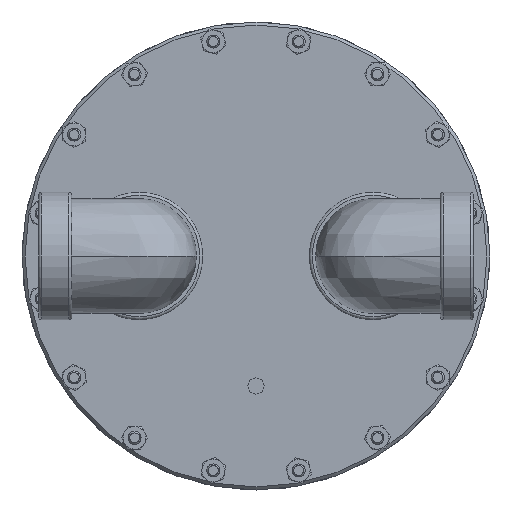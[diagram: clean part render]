
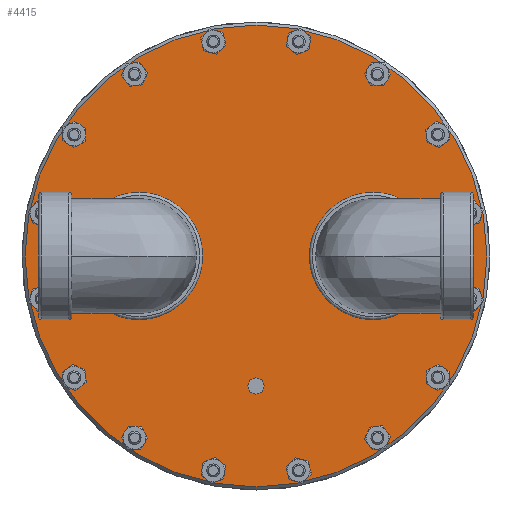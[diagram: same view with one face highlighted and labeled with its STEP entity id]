
A CAD part, front view. The second image highlights one B-rep face of the part: STEP entity #4415.
In plain terms, the highlighted planar face has unit normal (0, -1, 0) as drawn and (0, 0, -1) by its records, which use the part's own axes.
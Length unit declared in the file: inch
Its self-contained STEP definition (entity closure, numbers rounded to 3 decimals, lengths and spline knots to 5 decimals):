
#720=PLANE('',#4900);
#916=FACE_BOUND('',#1614,.T.);
#917=FACE_BOUND('',#1615,.T.);
#918=FACE_BOUND('',#1616,.T.);
#919=FACE_BOUND('',#1617,.T.);
#920=FACE_BOUND('',#1618,.T.);
#921=FACE_BOUND('',#1619,.T.);
#922=FACE_BOUND('',#1620,.T.);
#923=FACE_BOUND('',#1621,.T.);
#924=FACE_BOUND('',#1622,.T.);
#925=FACE_BOUND('',#1623,.T.);
#926=FACE_BOUND('',#1624,.T.);
#927=FACE_BOUND('',#1625,.T.);
#928=FACE_BOUND('',#1626,.T.);
#929=FACE_BOUND('',#1627,.T.);
#930=FACE_BOUND('',#1628,.T.);
#931=FACE_BOUND('',#1629,.T.);
#932=FACE_BOUND('',#1630,.T.);
#933=FACE_BOUND('',#1631,.T.);
#934=FACE_BOUND('',#1632,.T.);
#1162=FACE_OUTER_BOUND('',#1613,.T.);
#1613=EDGE_LOOP('',(#3543));
#1614=EDGE_LOOP('',(#3544));
#1615=EDGE_LOOP('',(#3545));
#1616=EDGE_LOOP('',(#3546));
#1617=EDGE_LOOP('',(#3547));
#1618=EDGE_LOOP('',(#3548));
#1619=EDGE_LOOP('',(#3549));
#1620=EDGE_LOOP('',(#3550));
#1621=EDGE_LOOP('',(#3551));
#1622=EDGE_LOOP('',(#3552));
#1623=EDGE_LOOP('',(#3553));
#1624=EDGE_LOOP('',(#3554));
#1625=EDGE_LOOP('',(#3555));
#1626=EDGE_LOOP('',(#3556));
#1627=EDGE_LOOP('',(#3557));
#1628=EDGE_LOOP('',(#3558));
#1629=EDGE_LOOP('',(#3559));
#1630=EDGE_LOOP('',(#3560));
#1631=EDGE_LOOP('',(#3561));
#1632=EDGE_LOOP('',(#3562));
#2032=CIRCLE('',#4845,0.1285);
#2034=CIRCLE('',#4848,0.1285);
#2036=CIRCLE('',#4851,0.1285);
#2038=CIRCLE('',#4854,0.1285);
#2040=CIRCLE('',#4857,0.1285);
#2042=CIRCLE('',#4860,0.1285);
#2044=CIRCLE('',#4863,0.1285);
#2046=CIRCLE('',#4866,0.1285);
#2048=CIRCLE('',#4869,0.1285);
#2050=CIRCLE('',#4872,0.1285);
#2052=CIRCLE('',#4875,0.1285);
#2054=CIRCLE('',#4878,0.1285);
#2056=CIRCLE('',#4881,0.1285);
#2058=CIRCLE('',#4884,0.1285);
#2060=CIRCLE('',#4887,0.1285);
#2062=CIRCLE('',#4890,0.1285);
#2065=CIRCLE('',#4894,0.155);
#2067=CIRCLE('',#4897,4.44);
#2069=CIRCLE('',#4901,0.95);
#2070=CIRCLE('',#4902,0.95);
#2378=VERTEX_POINT('',#7168);
#2380=VERTEX_POINT('',#7173);
#2382=VERTEX_POINT('',#7178);
#2384=VERTEX_POINT('',#7183);
#2386=VERTEX_POINT('',#7188);
#2388=VERTEX_POINT('',#7193);
#2390=VERTEX_POINT('',#7198);
#2392=VERTEX_POINT('',#7203);
#2394=VERTEX_POINT('',#7208);
#2396=VERTEX_POINT('',#7213);
#2398=VERTEX_POINT('',#7218);
#2400=VERTEX_POINT('',#7223);
#2402=VERTEX_POINT('',#7228);
#2404=VERTEX_POINT('',#7233);
#2406=VERTEX_POINT('',#7238);
#2408=VERTEX_POINT('',#7243);
#2411=VERTEX_POINT('',#7250);
#2413=VERTEX_POINT('',#7255);
#2415=VERTEX_POINT('',#7261);
#2416=VERTEX_POINT('',#7263);
#2798=EDGE_CURVE('',#2378,#2378,#2032,.T.);
#2800=EDGE_CURVE('',#2380,#2380,#2034,.T.);
#2802=EDGE_CURVE('',#2382,#2382,#2036,.T.);
#2804=EDGE_CURVE('',#2384,#2384,#2038,.T.);
#2806=EDGE_CURVE('',#2386,#2386,#2040,.T.);
#2808=EDGE_CURVE('',#2388,#2388,#2042,.T.);
#2810=EDGE_CURVE('',#2390,#2390,#2044,.T.);
#2812=EDGE_CURVE('',#2392,#2392,#2046,.T.);
#2814=EDGE_CURVE('',#2394,#2394,#2048,.T.);
#2816=EDGE_CURVE('',#2396,#2396,#2050,.T.);
#2818=EDGE_CURVE('',#2398,#2398,#2052,.T.);
#2820=EDGE_CURVE('',#2400,#2400,#2054,.T.);
#2822=EDGE_CURVE('',#2402,#2402,#2056,.T.);
#2824=EDGE_CURVE('',#2404,#2404,#2058,.T.);
#2826=EDGE_CURVE('',#2406,#2406,#2060,.T.);
#2828=EDGE_CURVE('',#2408,#2408,#2062,.T.);
#2831=EDGE_CURVE('',#2411,#2411,#2065,.T.);
#2833=EDGE_CURVE('',#2413,#2413,#2067,.T.);
#2835=EDGE_CURVE('',#2415,#2415,#2069,.T.);
#2836=EDGE_CURVE('',#2416,#2416,#2070,.T.);
#3543=ORIENTED_EDGE('',*,*,#2833,.F.);
#3544=ORIENTED_EDGE('',*,*,#2798,.T.);
#3545=ORIENTED_EDGE('',*,*,#2800,.T.);
#3546=ORIENTED_EDGE('',*,*,#2802,.T.);
#3547=ORIENTED_EDGE('',*,*,#2804,.T.);
#3548=ORIENTED_EDGE('',*,*,#2806,.T.);
#3549=ORIENTED_EDGE('',*,*,#2808,.T.);
#3550=ORIENTED_EDGE('',*,*,#2810,.T.);
#3551=ORIENTED_EDGE('',*,*,#2812,.T.);
#3552=ORIENTED_EDGE('',*,*,#2814,.T.);
#3553=ORIENTED_EDGE('',*,*,#2816,.T.);
#3554=ORIENTED_EDGE('',*,*,#2818,.T.);
#3555=ORIENTED_EDGE('',*,*,#2820,.T.);
#3556=ORIENTED_EDGE('',*,*,#2822,.T.);
#3557=ORIENTED_EDGE('',*,*,#2824,.T.);
#3558=ORIENTED_EDGE('',*,*,#2826,.T.);
#3559=ORIENTED_EDGE('',*,*,#2828,.T.);
#3560=ORIENTED_EDGE('',*,*,#2831,.T.);
#3561=ORIENTED_EDGE('',*,*,#2835,.T.);
#3562=ORIENTED_EDGE('',*,*,#2836,.T.);
#4415=ADVANCED_FACE('',(#1162,#916,#917,#918,#919,#920,#921,#922,#923,#924,
#925,#926,#927,#928,#929,#930,#931,#932,#933,#934),#720,.T.);
#4845=AXIS2_PLACEMENT_3D('',#7169,#5810,#5811);
#4848=AXIS2_PLACEMENT_3D('',#7174,#5816,#5817);
#4851=AXIS2_PLACEMENT_3D('',#7179,#5822,#5823);
#4854=AXIS2_PLACEMENT_3D('',#7184,#5828,#5829);
#4857=AXIS2_PLACEMENT_3D('',#7189,#5834,#5835);
#4860=AXIS2_PLACEMENT_3D('',#7194,#5840,#5841);
#4863=AXIS2_PLACEMENT_3D('',#7199,#5846,#5847);
#4866=AXIS2_PLACEMENT_3D('',#7204,#5852,#5853);
#4869=AXIS2_PLACEMENT_3D('',#7209,#5858,#5859);
#4872=AXIS2_PLACEMENT_3D('',#7214,#5864,#5865);
#4875=AXIS2_PLACEMENT_3D('',#7219,#5870,#5871);
#4878=AXIS2_PLACEMENT_3D('',#7224,#5876,#5877);
#4881=AXIS2_PLACEMENT_3D('',#7229,#5882,#5883);
#4884=AXIS2_PLACEMENT_3D('',#7234,#5888,#5889);
#4887=AXIS2_PLACEMENT_3D('',#7239,#5894,#5895);
#4890=AXIS2_PLACEMENT_3D('',#7244,#5900,#5901);
#4894=AXIS2_PLACEMENT_3D('',#7251,#5908,#5909);
#4897=AXIS2_PLACEMENT_3D('',#7256,#5914,#5915);
#4900=AXIS2_PLACEMENT_3D('',#7260,#5920,#5921);
#4901=AXIS2_PLACEMENT_3D('',#7262,#5922,#5923);
#4902=AXIS2_PLACEMENT_3D('',#7264,#5924,#5925);
#5810=DIRECTION('center_axis',(0.,0.,1.));
#5811=DIRECTION('ref_axis',(1.,0.,0.));
#5816=DIRECTION('center_axis',(0.,0.,1.));
#5817=DIRECTION('ref_axis',(1.,0.,0.));
#5822=DIRECTION('center_axis',(0.,0.,1.));
#5823=DIRECTION('ref_axis',(1.,0.,0.));
#5828=DIRECTION('center_axis',(0.,0.,1.));
#5829=DIRECTION('ref_axis',(1.,0.,0.));
#5834=DIRECTION('center_axis',(0.,0.,1.));
#5835=DIRECTION('ref_axis',(1.,0.,0.));
#5840=DIRECTION('center_axis',(0.,0.,1.));
#5841=DIRECTION('ref_axis',(1.,0.,0.));
#5846=DIRECTION('center_axis',(0.,0.,1.));
#5847=DIRECTION('ref_axis',(1.,0.,0.));
#5852=DIRECTION('center_axis',(0.,0.,1.));
#5853=DIRECTION('ref_axis',(1.,0.,0.));
#5858=DIRECTION('center_axis',(0.,0.,1.));
#5859=DIRECTION('ref_axis',(1.,0.,0.));
#5864=DIRECTION('center_axis',(0.,0.,1.));
#5865=DIRECTION('ref_axis',(1.,0.,0.));
#5870=DIRECTION('center_axis',(0.,0.,1.));
#5871=DIRECTION('ref_axis',(1.,0.,0.));
#5876=DIRECTION('center_axis',(0.,0.,1.));
#5877=DIRECTION('ref_axis',(1.,0.,0.));
#5882=DIRECTION('center_axis',(0.,0.,1.));
#5883=DIRECTION('ref_axis',(1.,0.,0.));
#5888=DIRECTION('center_axis',(0.,0.,1.));
#5889=DIRECTION('ref_axis',(1.,0.,0.));
#5894=DIRECTION('center_axis',(0.,0.,1.));
#5895=DIRECTION('ref_axis',(1.,0.,0.));
#5900=DIRECTION('center_axis',(0.,0.,1.));
#5901=DIRECTION('ref_axis',(1.,0.,0.));
#5908=DIRECTION('center_axis',(0.,0.,1.));
#5909=DIRECTION('ref_axis',(-1.,0.,0.));
#5914=DIRECTION('center_axis',(0.,0.,1.));
#5915=DIRECTION('ref_axis',(-1.,0.,0.));
#5920=DIRECTION('center_axis',(0.,0.,-1.));
#5921=DIRECTION('ref_axis',(-1.,0.,0.));
#5922=DIRECTION('center_axis',(0.,0.,1.));
#5923=DIRECTION('ref_axis',(-1.,0.,0.));
#5924=DIRECTION('center_axis',(0.,0.,1.));
#5925=DIRECTION('ref_axis',(-1.,0.,0.));
#7168=CARTESIAN_POINT('',(0.69185,-4.1242,0.));
#7169=CARTESIAN_POINT('Origin',(0.82035,-4.1242,0.));
#7173=CARTESIAN_POINT('',(2.20767,-3.49633,0.));
#7174=CARTESIAN_POINT('Origin',(2.33617,-3.49633,0.));
#7178=CARTESIAN_POINT('',(3.36783,-2.33617,0.));
#7179=CARTESIAN_POINT('Origin',(3.49633,-2.33617,0.));
#7183=CARTESIAN_POINT('',(3.9957,-0.82035,0.));
#7184=CARTESIAN_POINT('Origin',(4.1242,-0.82035,0.));
#7188=CARTESIAN_POINT('',(-0.94885,-4.1242,0.));
#7189=CARTESIAN_POINT('Origin',(-0.82035,-4.1242,0.));
#7193=CARTESIAN_POINT('',(-2.46467,-3.49633,0.));
#7194=CARTESIAN_POINT('Origin',(-2.33617,-3.49633,0.));
#7198=CARTESIAN_POINT('',(-3.62483,-2.33617,0.));
#7199=CARTESIAN_POINT('Origin',(-3.49633,-2.33617,0.));
#7203=CARTESIAN_POINT('',(-4.2527,-0.82035,0.));
#7204=CARTESIAN_POINT('Origin',(-4.1242,-0.82035,0.));
#7208=CARTESIAN_POINT('',(-4.2527,0.82035,0.));
#7209=CARTESIAN_POINT('Origin',(-4.1242,0.82035,0.));
#7213=CARTESIAN_POINT('',(-3.62483,2.33617,0.));
#7214=CARTESIAN_POINT('Origin',(-3.49633,2.33617,0.));
#7218=CARTESIAN_POINT('',(-2.46467,3.49633,0.));
#7219=CARTESIAN_POINT('Origin',(-2.33617,3.49633,0.));
#7223=CARTESIAN_POINT('',(-0.94885,4.1242,0.));
#7224=CARTESIAN_POINT('Origin',(-0.82035,4.1242,0.));
#7228=CARTESIAN_POINT('',(0.69185,4.1242,0.));
#7229=CARTESIAN_POINT('Origin',(0.82035,4.1242,0.));
#7233=CARTESIAN_POINT('',(2.20767,3.49633,0.));
#7234=CARTESIAN_POINT('Origin',(2.33617,3.49633,0.));
#7238=CARTESIAN_POINT('',(3.36783,2.33617,0.));
#7239=CARTESIAN_POINT('Origin',(3.49633,2.33617,0.));
#7243=CARTESIAN_POINT('',(3.9957,0.82035,0.));
#7244=CARTESIAN_POINT('Origin',(4.1242,0.82035,0.));
#7250=CARTESIAN_POINT('',(-0.155,2.5,0.));
#7251=CARTESIAN_POINT('Origin',(0.,2.5,0.));
#7255=CARTESIAN_POINT('',(4.44,0.,0.));
#7256=CARTESIAN_POINT('Origin',(0.,0.,0.));
#7260=CARTESIAN_POINT('Origin',(0.,0.,0.));
#7261=CARTESIAN_POINT('',(3.2,0.,0.));
#7262=CARTESIAN_POINT('Origin',(2.25,0.,0.));
#7263=CARTESIAN_POINT('',(-1.3,0.,0.));
#7264=CARTESIAN_POINT('Origin',(-2.25,0.,0.));
